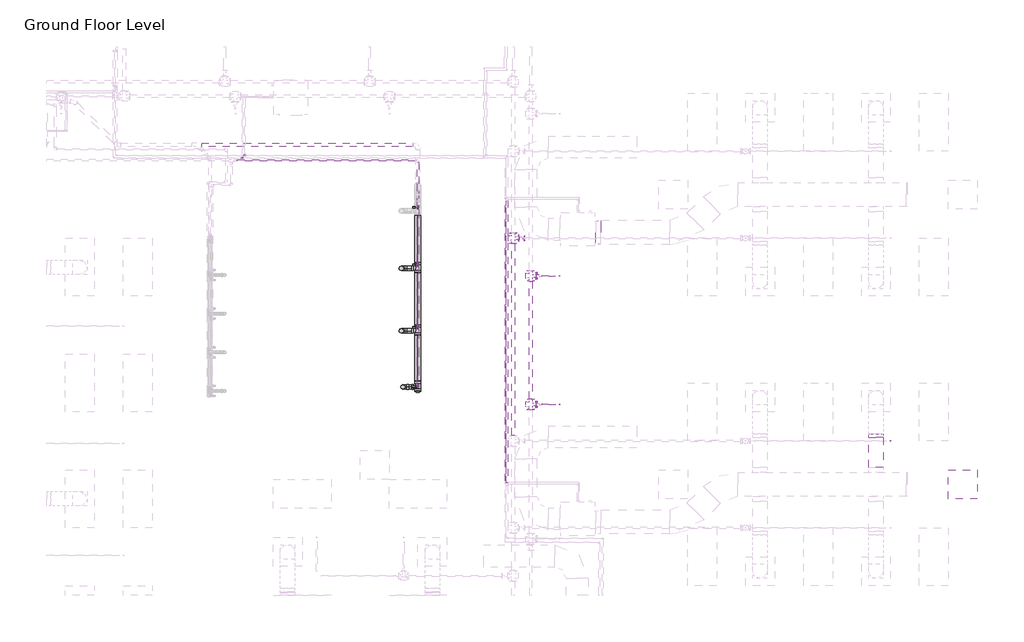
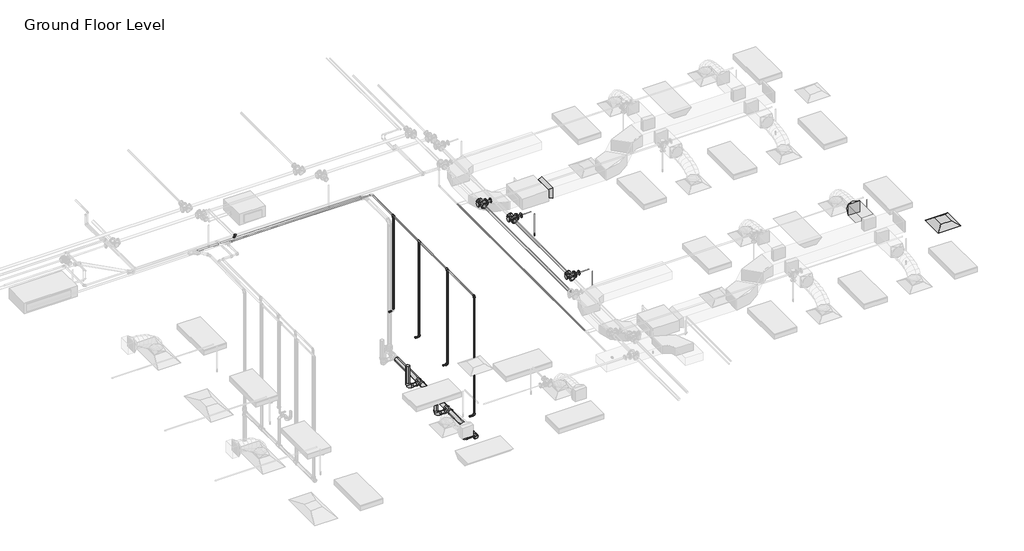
# One storey, part 65 of 73: 32 pipe segments, 24 pipe fittings, 3 fire suppression terminals, 2 duct fittings, 1 air terminal, 1 duct segment.
"""IFC4 building model written with IfcOpenShell, lengths in millimetres."""

from ifc_helpers import new_model, si_unit, point, frame, frame_2d, origin, place, context, project, spatial, polyline, circle_curve, trimmed, segment, composite_curve, outline, extrude, transform, mapped, element, save
from components import m_return_diffuser_600_x_600_face_300_x_300_connection_ff221211, m_rectangular_transition_angle_45_degree_2b595dfe, m_rectangular_to_round_transition_angle_45_degree_641efff0, m_sprinkler_dry_pendent_hosted_15_mm_dry_pendent_9bda8e11, m_sprinkler_pendent_15_mm_pendent_06fcbd8e, m_bend_pvc_sch_40_dwv_standard_a4b99d37, m_plug_pvc_sch_40_dwv_standard_6c40de1c, m_reducer_flanged_cs_class_150_standard_9dfe9ec5, m_reducer_flanged_cs_class_150_standard_a7631c35, m_tee_generic_standard_cdc1cff5, m_tee_generic_standard_bbfc025c, m_tee_reducing_sanitary_pvc_sch_40_dwv_standard_b49161a9, m_tee_round_base_flanged_cs_class_150_standard_dd767e04, m_transition_generic_standard_e9aec4dd, m_transition_generic_standard_c2658a33, standard_517a5a8d, standard_72b35c3b, standard_bfa7e4ca

model = new_model("IFC4")

# Units and contexts
model_context = context("Model", 3, world=origin())
ifc_project = project(units=[si_unit("LENGTHUNIT", "METRE", prefix="MILLI")], contexts=[model_context])

# Site, building, storey
site = spatial("IfcSite", under=ifc_project)
building = spatial("IfcBuilding", under=site)
storey = spatial("IfcBuildingStorey", under=building, Name="Ground Floor Level", Elevation=900.0)

# Air terminal
placement = place(None, origin())
m_return_diffuser_600_x_600_face_300_x_300_connection_shape = m_return_diffuser_600_x_600_face_300_x_300_connection_ff221211(model_context)
element("IfcAirTerminal", 1, ObjectType="M_Return Diffuser : 600 x 600 Face 300 x 300 Connection", at=placement, inside=storey, context=model_context, shape_type="MappedRepresentation", body=[
    mapped(m_return_diffuser_600_x_600_face_300_x_300_connection_shape, transform((14942.7672395, 6735.2153534, 3650.0), x_axis=(1.0, 0.0, 0.0), y_axis=(0.0, 1.0, 0.0), z_axis=(0.0, 0.0, 1.0))),
])

# Duct fittings
m_rectangular_transition_angle_45_degree_shape = m_rectangular_transition_angle_45_degree_2b595dfe(model_context)
element("IfcDuctFitting", 2, ObjectType="M_Rectangular Transition - Angle : 45 Degree", at=placement, inside=storey, context=model_context, shape_type="MappedRepresentation", body=[
    mapped(m_rectangular_transition_angle_45_degree_shape, transform((7344.2139492, 11956.1779527, 4100.0057729), x_axis=(1.0, 0.0, 0.0), y_axis=(0.0, 1.0, 0.0), z_axis=(0.0, 0.0, 1.0))),
])
m_rectangular_to_round_transition_angle_45_degree_shape = m_rectangular_to_round_transition_angle_45_degree_641efff0(model_context)
element("IfcDuctFitting", 3, ObjectType="M_Rectangular to Round Transition - Angle : 45 Degree", at=placement, inside=storey, context=model_context, shape_type="MappedRepresentation", body=[
    mapped(m_rectangular_to_round_transition_angle_45_degree_shape, transform((13142.7672395, 7707.8794221, 4100.0), x_axis=(0.0, 1.0, 0.0), y_axis=(-1.0, 0.0, 0.0), z_axis=(0.0, 0.0, 1.0))),
])

# Duct segment
element("IfcDuctSegment", 4, ObjectType="Radius Elbows / Taps", at=placement, inside=storey, context=model_context, shape_type="SweptSolid", body=[
    extrude(outline(polyline([(13292.7672395, 7086.8153534), (12992.7672395, 7086.8153534), (12992.7672395, 7707.8794221), (13292.7672395, 7707.8794221), (13292.7672395, 7086.8153534)])), frame((0.0, 0.0, 3950.0), z_axis=(0.0, 0.0, 1.0), x_axis=(1.0, 0.0, 0.0)), (0.0, 0.0, 1.0), 300.0),
])

# Fire suppression terminals
m_sprinkler_dry_pendent_hosted_15_mm_dry_pendent_shape = m_sprinkler_dry_pendent_hosted_15_mm_dry_pendent_9bda8e11(model_context)
element("IfcFireSuppressionTerminal", 5, ObjectType="M_Sprinkler - Dry - Pendent - Hosted : 15 mm Dry Pendent", at=placement, inside=storey, context=model_context, shape_type="MappedRepresentation", body=[
    mapped(m_sprinkler_dry_pendent_hosted_15_mm_dry_pendent_shape, transform((13442.7672395, 7635.2153534, 3650.0), x_axis=(1.0, 0.0, 0.0), y_axis=(0.0, -1.0, 0.0), z_axis=(0.0, 0.0, -1.0))),
])
m_sprinkler_pendent_15_mm_pendent_shape = m_sprinkler_pendent_15_mm_pendent_06fcbd8e(model_context)
element("IfcFireSuppressionTerminal", 6, ObjectType="M_Sprinkler - Pendent : 15 mm Pendent", at=placement, inside=storey, context=model_context, shape_type="MappedRepresentation", body=[
    mapped(m_sprinkler_pendent_15_mm_pendent_shape, transform((6592.5481019, 11054.9808263, 3650.0), x_axis=(1.0, 0.0, 0.0), y_axis=(0.0, 1.0, 0.0), z_axis=(0.0, 0.0, 1.0))),
])
element("IfcFireSuppressionTerminal", 7, ObjectType="M_Sprinkler - Pendent : 15 mm Pendent", at=placement, inside=storey, context=model_context, shape_type="MappedRepresentation", body=[
    mapped(m_sprinkler_pendent_15_mm_pendent_shape, transform((6592.5481019, 8393.5579106, 3650.0), x_axis=(1.0, 0.0, 0.0), y_axis=(0.0, 1.0, 0.0), z_axis=(0.0, 0.0, 1.0))),
])

# Pipe fittings
m_bend_pvc_sch_40_dwv_standard_shape = m_bend_pvc_sch_40_dwv_standard_a4b99d37(model_context)
element("IfcPipeFitting", 8, ObjectType="M_Bend - PVC - Sch 40 - DWV : Standard", at=placement, inside=storey, context=model_context, shape_type="MappedRepresentation", body=[
    mapped(m_bend_pvc_sch_40_dwv_standard_shape, transform((3351.3697667, 8754.4159333, 426.6255336), x_axis=(0.0, 0.0, -1.0), y_axis=(1.0, 0.0, 0.0), z_axis=(0.0, -1.0, 0.0))),
])
element("IfcPipeFitting", 9, ObjectType="M_Bend - PVC - Sch 40 - DWV : Standard", at=placement, inside=storey, context=model_context, shape_type="MappedRepresentation", body=[
    mapped(m_bend_pvc_sch_40_dwv_standard_shape, transform((3319.2245422, 9917.654001, 414.9931529), x_axis=(0.0, 0.0, -1.0), y_axis=(1.0, 0.0, 0.0), z_axis=(0.0, -1.0, 0.0))),
])
element("IfcPipeFitting", 10, ObjectType="M_Bend - PVC - Sch 40 - DWV : Standard", at=placement, inside=storey, context=model_context, shape_type="MappedRepresentation", body=[
    mapped(m_bend_pvc_sch_40_dwv_standard_shape, transform((3319.2245422, 11211.6258776, 402.0534342), x_axis=(0.0, 0.0, -1.0), y_axis=(1.0, 0.0, 0.0), z_axis=(0.0, -1.0, 0.0))),
])
m_plug_pvc_sch_40_dwv_standard_shape = m_plug_pvc_sch_40_dwv_standard_6c40de1c(model_context)
element("IfcPipeFitting", 11, ObjectType="M_Plug - PVC - Sch 40 - DWV : Standard", at=placement, inside=storey, context=model_context, shape_type="MappedRepresentation", body=[
    mapped(m_plug_pvc_sch_40_dwv_standard_shape, transform((3657.4922763, 8665.519878, 427.4644942), x_axis=(0.0, -0.9999500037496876, 0.009999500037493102), y_axis=(1.0, 0.0, 0.0), z_axis=(0.0, 0.009999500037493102, 0.9999500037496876))),
])
m_reducer_flanged_cs_class_150_standard_shape = m_reducer_flanged_cs_class_150_standard_9dfe9ec5(model_context)
element("IfcPipeFitting", 12, ObjectType="M_Reducer - Flanged - CS - Class 150 : Standard", at=placement, inside=storey, context=model_context, shape_type="MappedRepresentation", body=[
    mapped(m_reducer_flanged_cs_class_150_standard_shape, transform((6111.057812, 11054.9808263, 4291.2754753), x_axis=(1.0, 0.0, 0.0), y_axis=(0.0, 0.0, -1.0), z_axis=(0.0, 1.0, 0.0))),
])
element("IfcPipeFitting", 13, ObjectType="M_Reducer - Flanged - CS - Class 150 : Standard", at=placement, inside=storey, context=model_context, shape_type="MappedRepresentation", body=[
    mapped(m_reducer_flanged_cs_class_150_standard_shape, transform((6111.057812, 8393.5579106, 4291.2754753), x_axis=(1.0, 0.0, 0.0), y_axis=(0.0, 0.0, -1.0), z_axis=(0.0, 1.0, 0.0))),
])
m_reducer_flanged_cs_class_150_standard_2_shape = m_reducer_flanged_cs_class_150_standard_a7631c35(model_context)
element("IfcPipeFitting", 14, ObjectType="M_Reducer - Flanged - CS - Class 150 : Standard", at=placement, inside=storey, context=model_context, shape_type="MappedRepresentation", body=[
    mapped(m_reducer_flanged_cs_class_150_standard_2_shape, transform((5749.869498, 11835.2153534, 4360.0), x_axis=(1.0, 0.0, 0.0), y_axis=(0.0, 0.0, 1.0), z_axis=(0.0, -1.0, 0.0))),
])
m_tee_generic_standard_shape = m_tee_generic_standard_cdc1cff5(model_context)
element("IfcPipeFitting", 15, ObjectType="M_Tee - Generic : Standard", at=placement, inside=storey, context=model_context, shape_type="MappedRepresentation", body=[
    mapped(m_tee_generic_standard_shape, transform((29.9807053, 13494.0185138, 4365.0), x_axis=(-1.0, 0.0, 0.0), y_axis=(0.0, -1.0, 0.0), z_axis=(0.0, 0.0, 1.0))),
])
m_tee_generic_standard_2_shape = m_tee_generic_standard_bbfc025c(model_context)
element("IfcPipeFitting", 16, ObjectType="M_Tee - Generic : Standard", at=placement, inside=storey, context=model_context, shape_type="MappedRepresentation", body=[
    mapped(m_tee_generic_standard_2_shape, transform((79.6672395, 13545.2153534, 4380.0), x_axis=(-1.0, 0.0, 0.0), y_axis=(0.0, -1.0, 0.0), z_axis=(0.0, 0.0, 1.0))),
])
m_tee_reducing_sanitary_pvc_sch_40_dwv_standard_shape = m_tee_reducing_sanitary_pvc_sch_40_dwv_standard_b49161a9(model_context)
element("IfcPipeFitting", 17, ObjectType="M_Tee Reducing Sanitary - PVC - Sch 40 - DWV : Standard", at=placement, inside=storey, context=model_context, shape_type="MappedRepresentation", body=[
    mapped(m_tee_reducing_sanitary_pvc_sch_40_dwv_standard_shape, transform((3657.4922763, 8754.4154334, 426.5755386), x_axis=(0.0, -0.9999500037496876, 0.009999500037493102), y_axis=(1.0, 0.0, 0.0), z_axis=(0.0, 0.009999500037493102, 0.9999500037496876))),
])
element("IfcPipeFitting", 18, ObjectType="M_Tee Reducing Sanitary - PVC - Sch 40 - DWV : Standard", at=placement, inside=storey, context=model_context, shape_type="MappedRepresentation", body=[
    mapped(m_tee_reducing_sanitary_pvc_sch_40_dwv_standard_shape, transform((3657.4922763, 9917.6535011, 414.9431579), x_axis=(0.0, -0.9999500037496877, 0.009999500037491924), y_axis=(1.0000000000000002, 0.0, 0.0), z_axis=(0.0, 0.009999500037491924, 0.9999500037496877))),
])
element("IfcPipeFitting", 19, ObjectType="M_Tee Reducing Sanitary - PVC - Sch 40 - DWV : Standard", at=placement, inside=storey, context=model_context, shape_type="MappedRepresentation", body=[
    mapped(m_tee_reducing_sanitary_pvc_sch_40_dwv_standard_shape, transform((3657.4922763, 11211.6253777, 402.0034392), x_axis=(0.0, -0.9999500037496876, 0.00999950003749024), y_axis=(1.0, 0.0, 0.0), z_axis=(0.0, 0.00999950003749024, 0.9999500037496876))),
])
m_tee_round_base_flanged_cs_class_150_standard_shape = m_tee_round_base_flanged_cs_class_150_standard_dd767e04(model_context)
element("IfcPipeFitting", 20, ObjectType="M_Tee Round Base - Flanged - CS - Class 150 : Standard", at=placement, inside=storey, context=model_context, shape_type="MappedRepresentation", body=[
    mapped(m_tee_round_base_flanged_cs_class_150_standard_shape, transform((5997.057812, 11054.9808263, 4291.0943441), x_axis=(0.0, 1.0, 0.0), y_axis=(-1.0, 0.0, 0.0), z_axis=(0.0, 0.0, 1.0))),
])
element("IfcPipeFitting", 21, ObjectType="M_Tee Round Base - Flanged - CS - Class 150 : Standard", at=placement, inside=storey, context=model_context, shape_type="MappedRepresentation", body=[
    mapped(m_tee_round_base_flanged_cs_class_150_standard_shape, transform((5997.057812, 8393.5579106, 4291.0943441), x_axis=(0.0, 1.0, 0.0), y_axis=(-1.0, 0.0, 0.0), z_axis=(0.0, 0.0, 1.0))),
])
element("IfcPipeFitting", 22, ObjectType="M_Tee Round Base - Flanged - CS - Class 150 : Standard", at=placement, inside=storey, context=model_context, shape_type="MappedRepresentation", body=[
    mapped(m_tee_round_base_flanged_cs_class_150_standard_shape, transform((5635.869498, 11835.2153534, 4360.0), x_axis=(0.0, 1.0, 0.0), y_axis=(-1.0, 0.0, 0.0), z_axis=(0.0, 0.0, 1.0))),
])
m_transition_generic_standard_shape = m_transition_generic_standard_e9aec4dd(model_context)
element("IfcPipeFitting", 23, ObjectType="M_Transition - Generic : Standard", at=placement, inside=storey, context=model_context, shape_type="MappedRepresentation", body=[
    mapped(m_transition_generic_standard_shape, transform((79.6672395, 13570.6153534, 4380.0), x_axis=(0.0, 1.0, 0.0), y_axis=(-1.0, 0.0, 0.0), z_axis=(0.0, 0.0, 1.0))),
])
m_transition_generic_standard_2_shape = m_transition_generic_standard_c2658a33(model_context)
element("IfcPipeFitting", 24, ObjectType="M_Transition - Generic : Standard", at=placement, inside=storey, context=model_context, shape_type="MappedRepresentation", body=[
    mapped(m_transition_generic_standard_2_shape, transform((29.9807053, 13516.2435138, 4365.0), x_axis=(0.0, 1.0, 0.0), y_axis=(-1.0, 0.0, 0.0), z_axis=(0.0, 0.0, 1.0))),
])
standard_shape = standard_517a5a8d(model_context)
element("IfcPipeFitting", 25, ObjectType="M_Elbow - CPVC - Sch 40 : Standard", at=placement, inside=storey, context=model_context, shape_type="MappedRepresentation", body=[
    mapped(standard_shape, transform((3662.4674395, 8754.4154334, 4315.0), x_axis=(0.0, -1.0, 0.0), y_axis=(0.0, 0.0, -1.0), z_axis=(1.0, 0.0, 0.0))),
])
element("IfcPipeFitting", 26, ObjectType="M_Elbow - CPVC - Sch 40 : Standard", at=placement, inside=storey, context=model_context, shape_type="MappedRepresentation", body=[
    mapped(standard_shape, transform((3662.4674395, 9991.0922673, 1655.0), x_axis=(0.0, 0.0, -1.0), y_axis=(-1.0, 0.0, 0.0), z_axis=(0.0, 1.0, 0.0))),
])
element("IfcPipeFitting", 27, ObjectType="M_Elbow - CPVC - Sch 40 : Standard", at=placement, inside=storey, context=model_context, shape_type="MappedRepresentation", body=[
    mapped(standard_shape, transform((3662.4674395, 11285.0641439, 1655.0), x_axis=(0.0, 0.0, -1.0), y_axis=(-1.0, 0.0, 0.0), z_axis=(0.0, 1.0, 0.0))),
])
standard_2_shape = standard_72b35c3b(model_context)
element("IfcPipeFitting", 28, ObjectType="M_Tee - CPVC - Sch 40 : Standard", at=placement, inside=storey, context=model_context, shape_type="MappedRepresentation", body=[
    mapped(standard_2_shape, transform((3662.4674395, 9991.0922673, 4315.0), x_axis=(0.0, -1.0, 0.0), y_axis=(0.0, 0.0, 1.0), z_axis=(-1.0, 0.0, 0.0))),
])
element("IfcPipeFitting", 29, ObjectType="M_Tee - CPVC - Sch 40 : Standard", at=placement, inside=storey, context=model_context, shape_type="MappedRepresentation", body=[
    mapped(standard_2_shape, transform((3662.4674395, 11285.0641439, 4315.0), x_axis=(0.0, -1.0, 0.0), y_axis=(0.0, 0.0, 1.0), z_axis=(-1.0, 0.0, 0.0))),
])
element("IfcPipeFitting", 30, ObjectType="M_Tee - CPVC - Sch 40 : Standard", at=placement, inside=storey, context=model_context, shape_type="MappedRepresentation", body=[
    mapped(standard_2_shape, transform((3662.4674395, 12474.4768272, 4315.0), x_axis=(0.0, -1.0, 0.0), y_axis=(0.0, 0.0, 1.0), z_axis=(-1.0, 0.0, 0.0))),
])
standard_3_shape = standard_bfa7e4ca(model_context)
element("IfcPipeFitting", 31, ObjectType="M_Elbow - CPVC - Sch 40 : Standard", at=placement, inside=storey, context=model_context, shape_type="MappedRepresentation", body=[
    mapped(standard_3_shape, transform((3662.4674395, 8754.4154334, 983.5), x_axis=(0.0, 0.0, -1.0), y_axis=(-1.0, 0.0, 0.0), z_axis=(0.0, 1.0, 0.0))),
])

# Pipe segments
element("IfcPipeSegment", 32, ObjectType="CPVC", at=placement, inside=storey, context=model_context, shape_type="SweptSolid", body=[
    extrude(outline(composite_curve([segment(trimmed(circle_curve(frame_2d((13449.9865561, 4315.0)), 16.7005), [point((13433.2860561, 4315.0))], [point((13449.9865561, 4331.7005))], False, "CARTESIAN"), True, "CONTINUOUS"), segment(trimmed(circle_curve(frame_2d((13449.9865561, 4315.0)), 16.7005), [point((13449.9865561, 4331.7005))], [point((13466.6870561, 4315.0))], False, "CARTESIAN"), True, "CONTINUOUS"), segment(trimmed(circle_curve(frame_2d((13449.9865561, 4315.0)), 16.7005), [point((13466.6870561, 4315.0))], [point((13449.9865561, 4298.2995))], False, "CARTESIAN"), True, "CONTINUOUS"), segment(trimmed(circle_curve(frame_2d((13449.9865561, 4315.0)), 16.7005), [point((13449.9865561, 4298.2995))], [point((13433.2860561, 4315.0))], False, "CARTESIAN"), True, "CONTINUOUS")], self_intersect=False)), frame((-77.1388855, 0.0, 0.0), z_axis=(1.0, 0.0, 0.0), x_axis=(0.0, 1.0, 0.0)), (0.0, 0.0, 1.0), 3696.343775),
])
element("IfcPipeSegment", 33, ObjectType="CPVC", at=placement, inside=storey, context=model_context, shape_type="SweptSolid", body=[
    extrude(outline(composite_curve([segment(trimmed(circle_curve(frame_2d((8754.4154334, 983.4999927)), 16.7005), [point((8771.1159334, 983.4999927))], [point((8754.4154334, 966.7994927))], False, "CARTESIAN"), True, "CONTINUOUS"), segment(trimmed(circle_curve(frame_2d((8754.4154334, 983.4999927)), 16.7005), [point((8754.4154334, 966.7994927))], [point((8737.7149334, 983.4999927))], False, "CARTESIAN"), True, "CONTINUOUS"), segment(trimmed(circle_curve(frame_2d((8754.4154334, 983.4999927)), 16.7005), [point((8737.7149334, 983.4999927))], [point((8754.4154334, 1000.2004927))], False, "CARTESIAN"), True, "CONTINUOUS"), segment(trimmed(circle_curve(frame_2d((8754.4154334, 983.4999927)), 16.7005), [point((8754.4154334, 1000.2004927))], [point((8771.1159334, 983.4999927))], False, "CARTESIAN"), True, "CONTINUOUS")], self_intersect=False)), frame((3537.5384422, 0.0, 0.0), z_axis=(1.0, 0.0, 0.0), x_axis=(0.0, 1.0, 0.0)), (0.0, 0.0, 1.0), 81.6664508),
])
element("IfcPipeSegment", 34, ObjectType="CPVC", at=placement, inside=storey, context=model_context, shape_type="SweptSolid", body=[
    extrude(outline(composite_curve([segment(trimmed(circle_curve(frame_2d((3662.4674395, 8754.4154334)), 16.7005), [point((3679.1679395, 8754.4154334))], [point((3662.4674395, 8737.7149334))], False, "CARTESIAN"), True, "CONTINUOUS"), segment(trimmed(circle_curve(frame_2d((3662.4674395, 8754.4154334)), 16.7005), [point((3662.4674395, 8737.7149334))], [point((3645.7669395, 8754.4154334))], False, "CARTESIAN"), True, "CONTINUOUS"), segment(trimmed(circle_curve(frame_2d((3662.4674395, 8754.4154334)), 16.7005), [point((3645.7669395, 8754.4154334))], [point((3662.4674395, 8771.1159334))], False, "CARTESIAN"), True, "CONTINUOUS"), segment(trimmed(circle_curve(frame_2d((3662.4674395, 8754.4154334)), 16.7005), [point((3662.4674395, 8771.1159334))], [point((3679.1679395, 8754.4154334))], False, "CARTESIAN"), True, "CONTINUOUS")], self_intersect=False)), frame((0.0, 0.0, 1026.7625464), z_axis=(0.0, 0.0, 1.0), x_axis=(1.0, 0.0, 0.0)), (0.0, 0.0, 1.0), 3244.9749036),
])
element("IfcPipeSegment", 35, ObjectType="CPVC", at=placement, inside=storey, context=model_context, shape_type="SweptSolid", body=[
    extrude(outline(composite_curve([segment(trimmed(circle_curve(frame_2d((4315.0, 3662.4674395)), 16.7005), [point((4315.0, 3645.7669395))], [point((4298.2995, 3662.4674395))], False, "CARTESIAN"), True, "CONTINUOUS"), segment(trimmed(circle_curve(frame_2d((4315.0, 3662.4674395)), 16.7005), [point((4298.2995, 3662.4674395))], [point((4315.0, 3679.1679395))], False, "CARTESIAN"), True, "CONTINUOUS"), segment(trimmed(circle_curve(frame_2d((4315.0, 3662.4674395)), 16.7005), [point((4315.0, 3679.1679395))], [point((4331.7005, 3662.4674395))], False, "CARTESIAN"), True, "CONTINUOUS"), segment(trimmed(circle_curve(frame_2d((4315.0, 3662.4674395)), 16.7005), [point((4331.7005, 3662.4674395))], [point((4315.0, 3645.7669395))], False, "CARTESIAN"), True, "CONTINUOUS")], self_intersect=False)), frame((0.0, 8797.6779834, 0.0), z_axis=(0.0, 1.0, 0.0), x_axis=(0.0, 0.0, 1.0)), (0.0, 0.0, 1.0), 1153.7140839),
])
element("IfcPipeSegment", 36, ObjectType="CPVC", at=placement, inside=storey, context=model_context, shape_type="SweptSolid", body=[
    extrude(outline(composite_curve([segment(trimmed(circle_curve(frame_2d((9991.0922673, 1655.0)), 16.7005), [point((10007.7927673, 1655.0))], [point((9991.0922673, 1638.2995))], False, "CARTESIAN"), True, "CONTINUOUS"), segment(trimmed(circle_curve(frame_2d((9991.0922673, 1655.0)), 16.7005), [point((9991.0922673, 1638.2995))], [point((9974.3917673, 1655.0))], False, "CARTESIAN"), True, "CONTINUOUS"), segment(trimmed(circle_curve(frame_2d((9991.0922673, 1655.0)), 16.7005), [point((9974.3917673, 1655.0))], [point((9991.0922673, 1671.7005))], False, "CARTESIAN"), True, "CONTINUOUS"), segment(trimmed(circle_curve(frame_2d((9991.0922673, 1655.0)), 16.7005), [point((9991.0922673, 1671.7005))], [point((10007.7927673, 1655.0))], False, "CARTESIAN"), True, "CONTINUOUS")], self_intersect=False)), frame((3552.7672395, 0.0, 0.0), z_axis=(1.0, 0.0, 0.0), x_axis=(0.0, 1.0, 0.0)), (0.0, 0.0, 1.0), 66.43765),
])
element("IfcPipeSegment", 37, ObjectType="CPVC", at=placement, inside=storey, context=model_context, shape_type="SweptSolid", body=[
    extrude(outline(composite_curve([segment(trimmed(circle_curve(frame_2d((3662.4674395, 9991.0922673)), 16.7005), [point((3679.1679395, 9991.0922673))], [point((3662.4674395, 9974.3917673))], False, "CARTESIAN"), True, "CONTINUOUS"), segment(trimmed(circle_curve(frame_2d((3662.4674395, 9991.0922673)), 16.7005), [point((3662.4674395, 9974.3917673))], [point((3645.7669395, 9991.0922673))], False, "CARTESIAN"), True, "CONTINUOUS"), segment(trimmed(circle_curve(frame_2d((3662.4674395, 9991.0922673)), 16.7005), [point((3645.7669395, 9991.0922673))], [point((3662.4674395, 10007.7927673))], False, "CARTESIAN"), True, "CONTINUOUS"), segment(trimmed(circle_curve(frame_2d((3662.4674395, 9991.0922673)), 16.7005), [point((3662.4674395, 10007.7927673))], [point((3679.1679395, 9991.0922673))], False, "CARTESIAN"), True, "CONTINUOUS")], self_intersect=False)), frame((0.0, 0.0, 1698.26255), z_axis=(0.0, 0.0, 1.0), x_axis=(1.0, 0.0, 0.0)), (0.0, 0.0, 1.0), 2577.03725),
])
element("IfcPipeSegment", 38, ObjectType="CPVC", at=placement, inside=storey, context=model_context, shape_type="SweptSolid", body=[
    extrude(outline(composite_curve([segment(trimmed(circle_curve(frame_2d((4315.0, 3662.4674395)), 16.7005), [point((4315.0, 3645.7669395))], [point((4298.2995, 3662.4674395))], False, "CARTESIAN"), True, "CONTINUOUS"), segment(trimmed(circle_curve(frame_2d((4315.0, 3662.4674395)), 16.7005), [point((4298.2995, 3662.4674395))], [point((4315.0, 3679.1679395))], False, "CARTESIAN"), True, "CONTINUOUS"), segment(trimmed(circle_curve(frame_2d((4315.0, 3662.4674395)), 16.7005), [point((4315.0, 3679.1679395))], [point((4331.7005, 3662.4674395))], False, "CARTESIAN"), True, "CONTINUOUS"), segment(trimmed(circle_curve(frame_2d((4315.0, 3662.4674395)), 16.7005), [point((4331.7005, 3662.4674395))], [point((4315.0, 3645.7669395))], False, "CARTESIAN"), True, "CONTINUOUS")], self_intersect=False)), frame((0.0, 10030.7924673, 0.0), z_axis=(0.0, 1.0, 0.0), x_axis=(0.0, 0.0, 1.0)), (0.0, 0.0, 1.0), 1214.5714766),
])
element("IfcPipeSegment", 39, ObjectType="CPVC", at=placement, inside=storey, context=model_context, shape_type="SweptSolid", body=[
    extrude(outline(composite_curve([segment(trimmed(circle_curve(frame_2d((11285.0641439, 1655.0)), 16.7005), [point((11301.7646439, 1655.0))], [point((11285.0641439, 1638.2995))], False, "CARTESIAN"), True, "CONTINUOUS"), segment(trimmed(circle_curve(frame_2d((11285.0641439, 1655.0)), 16.7005), [point((11285.0641439, 1638.2995))], [point((11268.3636439, 1655.0))], False, "CARTESIAN"), True, "CONTINUOUS"), segment(trimmed(circle_curve(frame_2d((11285.0641439, 1655.0)), 16.7005), [point((11268.3636439, 1655.0))], [point((11285.0641439, 1671.7005))], False, "CARTESIAN"), True, "CONTINUOUS"), segment(trimmed(circle_curve(frame_2d((11285.0641439, 1655.0)), 16.7005), [point((11285.0641439, 1671.7005))], [point((11301.7646439, 1655.0))], False, "CARTESIAN"), True, "CONTINUOUS")], self_intersect=False)), frame((3552.7672395, 0.0, 0.0), z_axis=(1.0, 0.0, 0.0), x_axis=(0.0, 1.0, 0.0)), (0.0, 0.0, 1.0), 66.43765),
])
element("IfcPipeSegment", 40, ObjectType="CPVC", at=placement, inside=storey, context=model_context, shape_type="SweptSolid", body=[
    extrude(outline(composite_curve([segment(trimmed(circle_curve(frame_2d((3662.4674395, 11285.0641439)), 16.7005), [point((3679.1679395, 11285.0641439))], [point((3662.4674395, 11268.3636439))], False, "CARTESIAN"), True, "CONTINUOUS"), segment(trimmed(circle_curve(frame_2d((3662.4674395, 11285.0641439)), 16.7005), [point((3662.4674395, 11268.3636439))], [point((3645.7669395, 11285.0641439))], False, "CARTESIAN"), True, "CONTINUOUS"), segment(trimmed(circle_curve(frame_2d((3662.4674395, 11285.0641439)), 16.7005), [point((3645.7669395, 11285.0641439))], [point((3662.4674395, 11301.7646439))], False, "CARTESIAN"), True, "CONTINUOUS"), segment(trimmed(circle_curve(frame_2d((3662.4674395, 11285.0641439)), 16.7005), [point((3662.4674395, 11301.7646439))], [point((3679.1679395, 11285.0641439))], False, "CARTESIAN"), True, "CONTINUOUS")], self_intersect=False)), frame((0.0, 0.0, 1698.26255), z_axis=(0.0, 0.0, 1.0), x_axis=(1.0, 0.0, 0.0)), (0.0, 0.0, 1.0), 2577.03725),
])
element("IfcPipeSegment", 41, ObjectType="CPVC", at=placement, inside=storey, context=model_context, shape_type="SweptSolid", body=[
    extrude(outline(composite_curve([segment(trimmed(circle_curve(frame_2d((4315.0, 3662.4674395)), 16.7005), [point((4315.0, 3645.7669395))], [point((4298.2995, 3662.4674395))], False, "CARTESIAN"), True, "CONTINUOUS"), segment(trimmed(circle_curve(frame_2d((4315.0, 3662.4674395)), 16.7005), [point((4298.2995, 3662.4674395))], [point((4315.0, 3679.1679395))], False, "CARTESIAN"), True, "CONTINUOUS"), segment(trimmed(circle_curve(frame_2d((4315.0, 3662.4674395)), 16.7005), [point((4315.0, 3679.1679395))], [point((4331.7005, 3662.4674395))], False, "CARTESIAN"), True, "CONTINUOUS"), segment(trimmed(circle_curve(frame_2d((4315.0, 3662.4674395)), 16.7005), [point((4331.7005, 3662.4674395))], [point((4315.0, 3645.7669395))], False, "CARTESIAN"), True, "CONTINUOUS")], self_intersect=False)), frame((0.0, 11324.7643439, 0.0), z_axis=(0.0, 1.0, 0.0), x_axis=(0.0, 0.0, 1.0)), (0.0, 0.0, 1.0), 1110.0122833),
])
element("IfcPipeSegment", 42, ObjectType="CPVC", at=placement, inside=storey, context=model_context, shape_type="SweptSolid", body=[
    extrude(outline(composite_curve([segment(trimmed(circle_curve(frame_2d((12474.4768272, 1655.0)), 16.7005), [point((12491.1773272, 1655.0))], [point((12474.4768272, 1638.2995))], False, "CARTESIAN"), True, "CONTINUOUS"), segment(trimmed(circle_curve(frame_2d((12474.4768272, 1655.0)), 16.7005), [point((12474.4768272, 1638.2995))], [point((12457.7763272, 1655.0))], False, "CARTESIAN"), True, "CONTINUOUS"), segment(trimmed(circle_curve(frame_2d((12474.4768272, 1655.0)), 16.7005), [point((12457.7763272, 1655.0))], [point((12474.4768272, 1671.7005))], False, "CARTESIAN"), True, "CONTINUOUS"), segment(trimmed(circle_curve(frame_2d((12474.4768272, 1655.0)), 16.7005), [point((12474.4768272, 1671.7005))], [point((12491.1773272, 1655.0))], False, "CARTESIAN"), True, "CONTINUOUS")], self_intersect=False)), frame((3552.7672395, 0.0, 0.0), z_axis=(1.0, 0.0, 0.0), x_axis=(0.0, 1.0, 0.0)), (0.0, 0.0, 1.0), 66.43765),
])
element("IfcPipeSegment", 43, ObjectType="CPVC", at=placement, inside=storey, context=model_context, shape_type="SweptSolid", body=[
    extrude(outline(composite_curve([segment(trimmed(circle_curve(frame_2d((3662.4674395, 12474.4768272)), 16.7005), [point((3679.1679395, 12474.4768272))], [point((3662.4674395, 12457.7763272))], False, "CARTESIAN"), True, "CONTINUOUS"), segment(trimmed(circle_curve(frame_2d((3662.4674395, 12474.4768272)), 16.7005), [point((3662.4674395, 12457.7763272))], [point((3645.7669395, 12474.4768272))], False, "CARTESIAN"), True, "CONTINUOUS"), segment(trimmed(circle_curve(frame_2d((3662.4674395, 12474.4768272)), 16.7005), [point((3645.7669395, 12474.4768272))], [point((3662.4674395, 12491.1773272))], False, "CARTESIAN"), True, "CONTINUOUS"), segment(trimmed(circle_curve(frame_2d((3662.4674395, 12474.4768272)), 16.7005), [point((3662.4674395, 12491.1773272))], [point((3679.1679395, 12474.4768272))], False, "CARTESIAN"), True, "CONTINUOUS")], self_intersect=False)), frame((0.0, 0.0, 1698.26255), z_axis=(0.0, 0.0, 1.0), x_axis=(1.0, 0.0, 0.0)), (0.0, 0.0, 1.0), 2577.03725),
])
element("IfcPipeSegment", 44, ObjectType="CPVC", at=placement, inside=storey, context=model_context, shape_type="SweptSolid", body=[
    extrude(outline(composite_curve([segment(trimmed(circle_curve(frame_2d((4315.0, 3662.4674395)), 16.7005), [point((4315.0, 3645.7669395))], [point((4298.2995, 3662.4674395))], False, "CARTESIAN"), True, "CONTINUOUS"), segment(trimmed(circle_curve(frame_2d((4315.0, 3662.4674395)), 16.7005), [point((4298.2995, 3662.4674395))], [point((4315.0, 3679.1679395))], False, "CARTESIAN"), True, "CONTINUOUS"), segment(trimmed(circle_curve(frame_2d((4315.0, 3662.4674395)), 16.7005), [point((4315.0, 3679.1679395))], [point((4331.7005, 3662.4674395))], False, "CARTESIAN"), True, "CONTINUOUS"), segment(trimmed(circle_curve(frame_2d((4315.0, 3662.4674395)), 16.7005), [point((4331.7005, 3662.4674395))], [point((4315.0, 3645.7669395))], False, "CARTESIAN"), True, "CONTINUOUS")], self_intersect=False)), frame((0.0, 12514.1770272, 0.0), z_axis=(0.0, 1.0, 0.0), x_axis=(0.0, 0.0, 1.0)), (0.0, 0.0, 1.0), 892.546979),
])
element("IfcPipeSegment", 45, ObjectType="Copper", at=placement, inside=storey, context=model_context, shape_type="SweptSolid", body=[
    extrude(outline(composite_curve([segment(trimmed(circle_curve(frame_2d((3851.8370709, 5505.0672395)), 11.5), [point((3851.8370709, 5493.5672395))], [point((3840.3370709, 5505.0672395))], False, "CARTESIAN"), True, "CONTINUOUS"), segment(trimmed(circle_curve(frame_2d((3851.8370709, 5505.0672395)), 11.5), [point((3840.3370709, 5505.0672395))], [point((3851.8370709, 5516.5672395))], False, "CARTESIAN"), True, "CONTINUOUS"), segment(trimmed(circle_curve(frame_2d((3851.8370709, 5505.0672395)), 11.5), [point((3851.8370709, 5516.5672395))], [point((3863.3370709, 5505.0672395))], False, "CARTESIAN"), True, "CONTINUOUS"), segment(trimmed(circle_curve(frame_2d((3851.8370709, 5505.0672395)), 11.5), [point((3863.3370709, 5505.0672395))], [point((3851.8370709, 5493.5672395))], False, "CARTESIAN"), True, "CONTINUOUS")], self_intersect=False)), frame((0.0, 6766.8098545, 0.0), z_axis=(0.0, 1.0, 0.0), x_axis=(0.0, 0.0, 1.0)), (0.0, 0.0, 1.0), 5849.2),
])
element("IfcPipeSegment", 46, ObjectType="Copper", at=placement, inside=storey, context=model_context, shape_type="SweptSolid", body=[
    extrude(outline(composite_curve([segment(trimmed(circle_curve(frame_2d((3894.9, 5472.2057053)), 8.1), [point((3894.9, 5464.1057053))], [point((3886.8, 5472.2057053))], False, "CARTESIAN"), True, "CONTINUOUS"), segment(trimmed(circle_curve(frame_2d((3894.9, 5472.2057053)), 8.1), [point((3886.8, 5472.2057053))], [point((3894.9, 5480.3057053))], False, "CARTESIAN"), True, "CONTINUOUS"), segment(trimmed(circle_curve(frame_2d((3894.9, 5472.2057053)), 8.1), [point((3894.9, 5480.3057053))], [point((3903.0, 5472.2057053))], False, "CARTESIAN"), True, "CONTINUOUS"), segment(trimmed(circle_curve(frame_2d((3894.9, 5472.2057053)), 8.1), [point((3903.0, 5472.2057053))], [point((3894.9, 5464.1057053))], False, "CARTESIAN"), True, "CONTINUOUS")], self_intersect=False)), frame((0.0, 6803.7503374, 0.0), z_axis=(0.0, 1.0, 0.0), x_axis=(0.0, 0.0, 1.0)), (0.0, 0.0, 1.0), 5855.55),
])
element("IfcPipeSegment", 47, ObjectType="PVC - DWV", at=placement, inside=storey, context=model_context, shape_type="SweptSolid", body=[
    extrude(outline(composite_curve([segment(trimmed(circle_curve(frame_2d((0.0, -44.45)), 44.45), [point((-44.45, -44.45))], [point((0.0, 0.0))], False, "CARTESIAN"), True, "CONTINUOUS"), segment(trimmed(circle_curve(frame_2d((0.0, -44.45)), 44.45), [point((0.0, 0.0))], [point((44.45, -44.45))], False, "CARTESIAN"), True, "CONTINUOUS"), segment(trimmed(circle_curve(frame_2d((0.0, -44.45)), 44.45), [point((44.45, -44.45))], [point((0.0, -88.9))], False, "CARTESIAN"), True, "CONTINUOUS"), segment(trimmed(circle_curve(frame_2d((0.0, -44.45)), 44.45), [point((0.0, -88.9))], [point((-44.45, -44.45))], False, "CARTESIAN"), True, "CONTINUOUS")], self_intersect=False)), frame((3351.3697667, 8709.9659333, 542.5256565), z_axis=(0.0, -1.7350781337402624e-06, 0.9999999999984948), x_axis=(-1.0, 0.0, 0.0)), (0.0, 0.0, 1.0), 288.142643),
])
element("IfcPipeSegment", 48, ObjectType="PVC - DWV", at=placement, inside=storey, context=model_context, shape_type="SweptSolid", body=[
    extrude(outline(composite_curve([segment(trimmed(circle_curve(frame_2d((8754.4154334, 426.5755386)), 44.45), [point((8709.9654334, 426.5755386))], [point((8754.4154334, 471.0255386))], False, "CARTESIAN"), True, "CONTINUOUS"), segment(trimmed(circle_curve(frame_2d((8754.4154334, 426.5755386)), 44.45), [point((8754.4154334, 471.0255386))], [point((8798.8654334, 426.5755386))], False, "CARTESIAN"), True, "CONTINUOUS"), segment(trimmed(circle_curve(frame_2d((8754.4154334, 426.5755386)), 44.45), [point((8798.8654334, 426.5755386))], [point((8754.4154334, 382.1255386))], False, "CARTESIAN"), True, "CONTINUOUS"), segment(trimmed(circle_curve(frame_2d((8754.4154334, 426.5755386)), 44.45), [point((8754.4154334, 382.1255386))], [point((8709.9654334, 426.5755386))], False, "CARTESIAN"), True, "CONTINUOUS")], self_intersect=False)), frame((3467.2699667, 0.0, 0.0), z_axis=(1.0, 0.0, 0.0), x_axis=(0.0, 1.0, 0.0)), (0.0, 0.0, 1.0), 61.6221096),
])
element("IfcPipeSegment", 49, ObjectType="PVC - DWV", at=placement, inside=storey, context=model_context, shape_type="SweptSolid", body=[
    extrude(outline(composite_curve([segment(trimmed(circle_curve(frame_2d((0.0, -44.45)), 44.45), [point((-44.45, -44.45))], [point((0.0, 0.0))], False, "CARTESIAN"), True, "CONTINUOUS"), segment(trimmed(circle_curve(frame_2d((0.0, -44.45)), 44.45), [point((0.0, 0.0))], [point((44.45, -44.45))], False, "CARTESIAN"), True, "CONTINUOUS"), segment(trimmed(circle_curve(frame_2d((0.0, -44.45)), 44.45), [point((44.45, -44.45))], [point((0.0, -88.9))], False, "CARTESIAN"), True, "CONTINUOUS"), segment(trimmed(circle_curve(frame_2d((0.0, -44.45)), 44.45), [point((0.0, -88.9))], [point((-44.45, -44.45))], False, "CARTESIAN"), True, "CONTINUOUS")], self_intersect=False)), frame((3319.2245422, 9873.204001, 530.8933045), z_axis=(0.0, -1.0889626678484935e-06, 0.9999999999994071), x_axis=(-1.0, 0.0, 0.0)), (0.0, 0.0, 1.0), 459.1066471),
])
element("IfcPipeSegment", 50, ObjectType="PVC - DWV", at=placement, inside=storey, context=model_context, shape_type="SweptSolid", body=[
    extrude(outline(composite_curve([segment(trimmed(circle_curve(frame_2d((9917.6535011, 414.9431579)), 44.45), [point((9873.2035011, 414.9431579))], [point((9917.6535011, 459.3931579))], False, "CARTESIAN"), True, "CONTINUOUS"), segment(trimmed(circle_curve(frame_2d((9917.6535011, 414.9431579)), 44.45), [point((9917.6535011, 459.3931579))], [point((9962.1035011, 414.9431579))], False, "CARTESIAN"), True, "CONTINUOUS"), segment(trimmed(circle_curve(frame_2d((9917.6535011, 414.9431579)), 44.45), [point((9962.1035011, 414.9431579))], [point((9917.6535011, 370.4931579))], False, "CARTESIAN"), True, "CONTINUOUS"), segment(trimmed(circle_curve(frame_2d((9917.6535011, 414.9431579)), 44.45), [point((9917.6535011, 370.4931579))], [point((9873.2035011, 414.9431579))], False, "CARTESIAN"), True, "CONTINUOUS")], self_intersect=False)), frame((3435.1247422, 0.0, 0.0), z_axis=(1.0, 0.0, 0.0), x_axis=(0.0, 1.0, 0.0)), (0.0, 0.0, 1.0), 93.767334),
])
element("IfcPipeSegment", 51, ObjectType="PVC - DWV", at=placement, inside=storey, context=model_context, shape_type="SweptSolid", body=[
    extrude(outline(composite_curve([segment(trimmed(circle_curve(frame_2d((0.0, -57.15)), 57.15), [point((57.15, -57.15))], [point((0.0, -114.3))], False, "CARTESIAN"), True, "CONTINUOUS"), segment(trimmed(circle_curve(frame_2d((0.0, -57.15)), 57.15), [point((0.0, -114.3))], [point((-57.15, -57.15))], False, "CARTESIAN"), True, "CONTINUOUS"), segment(trimmed(circle_curve(frame_2d((0.0, -57.15)), 57.15), [point((-57.15, -57.15))], [point((0.0, 0.0))], False, "CARTESIAN"), True, "CONTINUOUS"), segment(trimmed(circle_curve(frame_2d((0.0, -57.15)), 57.15), [point((0.0, 0.0))], [point((57.15, -57.15))], False, "CARTESIAN"), True, "CONTINUOUS")], self_intersect=False)), frame((3657.4922763, 9829.3294172, 472.9792562), z_axis=(0.0, -0.9999500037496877, 0.009999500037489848), x_axis=(1.0, 0.0, 0.0)), (0.0, 0.0, 1.0), 953.7462281),
])
element("IfcPipeSegment", 52, ObjectType="PVC - DWV", at=placement, inside=storey, context=model_context, shape_type="SweptSolid", body=[
    extrude(outline(composite_curve([segment(trimmed(circle_curve(frame_2d((0.0, -44.45)), 44.45), [point((-44.45, -44.45))], [point((0.0, 0.0))], False, "CARTESIAN"), True, "CONTINUOUS"), segment(trimmed(circle_curve(frame_2d((0.0, -44.45)), 44.45), [point((0.0, 0.0))], [point((44.45, -44.45))], False, "CARTESIAN"), True, "CONTINUOUS"), segment(trimmed(circle_curve(frame_2d((0.0, -44.45)), 44.45), [point((44.45, -44.45))], [point((0.0, -88.9))], False, "CARTESIAN"), True, "CONTINUOUS"), segment(trimmed(circle_curve(frame_2d((0.0, -44.45)), 44.45), [point((0.0, -88.9))], [point((-44.45, -44.45))], False, "CARTESIAN"), True, "CONTINUOUS")], self_intersect=False)), frame((3319.2245422, 11167.1758776, 517.9535871), z_axis=(0.0, -1.0591120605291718e-06, 0.9999999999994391), x_axis=(-1.0, 0.0, 0.0)), (0.0, 0.0, 1.0), 472.0463658),
])
element("IfcPipeSegment", 53, ObjectType="PVC - DWV", at=placement, inside=storey, context=model_context, shape_type="SweptSolid", body=[
    extrude(outline(composite_curve([segment(trimmed(circle_curve(frame_2d((11211.6253777, 402.0034392)), 44.45), [point((11167.1753777, 402.0034392))], [point((11211.6253777, 446.4534392))], False, "CARTESIAN"), True, "CONTINUOUS"), segment(trimmed(circle_curve(frame_2d((11211.6253777, 402.0034392)), 44.45), [point((11211.6253777, 446.4534392))], [point((11256.0753777, 402.0034392))], False, "CARTESIAN"), True, "CONTINUOUS"), segment(trimmed(circle_curve(frame_2d((11211.6253777, 402.0034392)), 44.45), [point((11256.0753777, 402.0034392))], [point((11211.6253777, 357.5534392))], False, "CARTESIAN"), True, "CONTINUOUS"), segment(trimmed(circle_curve(frame_2d((11211.6253777, 402.0034392)), 44.45), [point((11211.6253777, 357.5534392))], [point((11167.1753777, 402.0034392))], False, "CARTESIAN"), True, "CONTINUOUS")], self_intersect=False)), frame((3435.1247422, 0.0, 0.0), z_axis=(1.0, 0.0, 0.0), x_axis=(0.0, 1.0, 0.0)), (0.0, 0.0, 1.0), 93.767334),
])
element("IfcPipeSegment", 54, ObjectType="PVC - DWV", at=placement, inside=storey, context=model_context, shape_type="SweptSolid", body=[
    extrude(outline(composite_curve([segment(trimmed(circle_curve(frame_2d((0.0, -57.15)), 57.15), [point((57.15, -57.15))], [point((0.0, -114.3))], False, "CARTESIAN"), True, "CONTINUOUS"), segment(trimmed(circle_curve(frame_2d((0.0, -57.15)), 57.15), [point((0.0, -114.3))], [point((-57.15, -57.15))], False, "CARTESIAN"), True, "CONTINUOUS"), segment(trimmed(circle_curve(frame_2d((0.0, -57.15)), 57.15), [point((-57.15, -57.15))], [point((0.0, 0.0))], False, "CARTESIAN"), True, "CONTINUOUS"), segment(trimmed(circle_curve(frame_2d((0.0, -57.15)), 57.15), [point((0.0, 0.0))], [point((57.15, -57.15))], False, "CARTESIAN"), True, "CONTINUOUS")], self_intersect=False)), frame((3657.4922763, 11123.3012938, 460.0395374), z_axis=(0.0, -0.9999500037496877, 0.009999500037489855), x_axis=(1.0, 0.0, 0.0)), (0.0, 0.0, 1.0), 1084.4865736),
])
element("IfcPipeSegment", 55, ObjectType="PVC - DWV", at=placement, inside=storey, context=model_context, shape_type="SweptSolid", body=[
    extrude(outline(composite_curve([segment(trimmed(circle_curve(frame_2d((0.0, -57.15)), 57.15), [point((57.15, -57.15))], [point((0.0, -114.3))], False, "CARTESIAN"), True, "CONTINUOUS"), segment(trimmed(circle_curve(frame_2d((0.0, -57.15)), 57.15), [point((0.0, -114.3))], [point((-57.15, -57.15))], False, "CARTESIAN"), True, "CONTINUOUS"), segment(trimmed(circle_curve(frame_2d((0.0, -57.15)), 57.15), [point((-57.15, -57.15))], [point((0.0, 0.0))], False, "CARTESIAN"), True, "CONTINUOUS"), segment(trimmed(circle_curve(frame_2d((0.0, -57.15)), 57.15), [point((0.0, 0.0))], [point((57.15, -57.15))], False, "CARTESIAN"), True, "CONTINUOUS")], self_intersect=False)), frame((3657.4922763, 12312.7139771, 448.1454106), z_axis=(0.0, -0.9999500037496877, 0.009999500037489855), x_axis=(1.0, 0.0, 0.0)), (0.0, 0.0, 1.0), 979.9221524),
])
element("IfcPipeSegment", 56, ObjectType="PVC - DWV", at=placement, inside=storey, context=model_context, shape_type="SweptSolid", body=[
    extrude(outline(composite_curve([segment(trimmed(circle_curve(frame_2d((0.0, -36.5125)), 36.5125), [point((0.0, -73.025))], [point((-36.5125, -36.5125))], False, "CARTESIAN"), True, "CONTINUOUS"), segment(trimmed(circle_curve(frame_2d((0.0, -36.5125)), 36.5125), [point((-36.5125, -36.5125))], [point((0.0, 0.0))], False, "CARTESIAN"), True, "CONTINUOUS"), segment(trimmed(circle_curve(frame_2d((0.0, -36.5125)), 36.5125), [point((0.0, 0.0))], [point((36.5124999, -36.5125))], False, "CARTESIAN"), True, "CONTINUOUS"), segment(trimmed(circle_curve(frame_2d((0.0, -36.5125)), 36.5125), [point((36.5124999, -36.5125))], [point((0.0, -73.025))], False, "CARTESIAN"), True, "CONTINUOUS")], self_intersect=False)), frame((3558.47698, 13805.2441659, 4066.516709), z_axis=(-0.9999499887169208, 0.0, 0.010001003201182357), x_axis=(0.010001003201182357, 0.0, 0.9999499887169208)), (0.0, 0.0, 1.0), 4372.6285655),
])
element("IfcPipeSegment", 57, ObjectType="Steel flanged", at=placement, inside=storey, context=model_context, shape_type="SweptSolid", body=[
    extrude(outline(composite_curve([segment(trimmed(circle_curve(frame_2d((6592.5481019, 11054.9808263)), 10.668), [point((6581.8801019, 11054.9808263))], [point((6592.5481019, 11065.6488263))], False, "CARTESIAN"), True, "CONTINUOUS"), segment(trimmed(circle_curve(frame_2d((6592.5481019, 11054.9808263)), 10.668), [point((6592.5481019, 11065.6488263))], [point((6603.2161019, 11054.9808263))], False, "CARTESIAN"), True, "CONTINUOUS"), segment(trimmed(circle_curve(frame_2d((6592.5481019, 11054.9808263)), 10.668), [point((6603.2161019, 11054.9808263))], [point((6592.5481019, 11044.3128263))], False, "CARTESIAN"), True, "CONTINUOUS"), segment(trimmed(circle_curve(frame_2d((6592.5481019, 11054.9808263)), 10.668), [point((6592.5481019, 11044.3128263))], [point((6581.8801019, 11054.9808263))], False, "CARTESIAN"), True, "CONTINUOUS")], self_intersect=False)), frame((0.0, 0.0, 3650.0), z_axis=(0.0, 0.0, 1.0), x_axis=(1.0, 0.0, 0.0)), (0.0, 0.0, 1.0), 548.2668816),
])
element("IfcPipeSegment", 58, ObjectType="Steel flanged", at=placement, inside=storey, context=model_context, shape_type="SweptSolid", body=[
    extrude(outline(composite_curve([segment(trimmed(circle_curve(frame_2d((11054.9808263, 4291.2754753)), 10.668), [point((11065.6488263, 4291.2754753))], [point((11054.9808263, 4280.6074753))], False, "CARTESIAN"), True, "CONTINUOUS"), segment(trimmed(circle_curve(frame_2d((11054.9808263, 4291.2754753)), 10.668), [point((11054.9808263, 4280.6074753))], [point((11044.3128263, 4291.2754753))], False, "CARTESIAN"), True, "CONTINUOUS"), segment(trimmed(circle_curve(frame_2d((11054.9808263, 4291.2754753)), 10.668), [point((11044.3128263, 4291.2754753))], [point((11054.9808263, 4301.9434753))], False, "CARTESIAN"), True, "CONTINUOUS"), segment(trimmed(circle_curve(frame_2d((11054.9808263, 4291.2754753)), 10.668), [point((11054.9808263, 4301.9434753))], [point((11065.6488263, 4291.2754753))], False, "CARTESIAN"), True, "CONTINUOUS")], self_intersect=False)), frame((6238.057812, 0.0, 0.0), z_axis=(1.0, 0.0, 0.0), x_axis=(0.0, 1.0, 0.0)), (0.0, 0.0, 1.0), 261.4816962),
])
element("IfcPipeSegment", 59, ObjectType="Steel flanged", at=placement, inside=storey, context=model_context, shape_type="SweptSolid", body=[
    extrude(outline(composite_curve([segment(trimmed(circle_curve(frame_2d((6592.5481019, 8393.5579106)), 10.668), [point((6581.8801019, 8393.5579106))], [point((6592.5481019, 8404.2259106))], False, "CARTESIAN"), True, "CONTINUOUS"), segment(trimmed(circle_curve(frame_2d((6592.5481019, 8393.5579106)), 10.668), [point((6592.5481019, 8404.2259106))], [point((6603.2161019, 8393.5579106))], False, "CARTESIAN"), True, "CONTINUOUS"), segment(trimmed(circle_curve(frame_2d((6592.5481019, 8393.5579106)), 10.668), [point((6603.2161019, 8393.5579106))], [point((6592.5481019, 8382.8899106))], False, "CARTESIAN"), True, "CONTINUOUS"), segment(trimmed(circle_curve(frame_2d((6592.5481019, 8393.5579106)), 10.668), [point((6592.5481019, 8382.8899106))], [point((6581.8801019, 8393.5579106))], False, "CARTESIAN"), True, "CONTINUOUS")], self_intersect=False)), frame((0.0, 0.0, 3650.0), z_axis=(0.0, 0.0, 1.0), x_axis=(1.0, 0.0, 0.0)), (0.0, 0.0, 1.0), 548.2668816),
])
element("IfcPipeSegment", 60, ObjectType="Steel flanged", at=placement, inside=storey, context=model_context, shape_type="SweptSolid", body=[
    extrude(outline(composite_curve([segment(trimmed(circle_curve(frame_2d((8393.5579106, 4291.2754753)), 10.668), [point((8404.2259106, 4291.2754753))], [point((8393.5579106, 4280.6074753))], False, "CARTESIAN"), True, "CONTINUOUS"), segment(trimmed(circle_curve(frame_2d((8393.5579106, 4291.2754753)), 10.668), [point((8393.5579106, 4280.6074753))], [point((8382.8899106, 4291.2754753))], False, "CARTESIAN"), True, "CONTINUOUS"), segment(trimmed(circle_curve(frame_2d((8393.5579106, 4291.2754753)), 10.668), [point((8382.8899106, 4291.2754753))], [point((8393.5579106, 4301.9434753))], False, "CARTESIAN"), True, "CONTINUOUS"), segment(trimmed(circle_curve(frame_2d((8393.5579106, 4291.2754753)), 10.668), [point((8393.5579106, 4301.9434753))], [point((8404.2259106, 4291.2754753))], False, "CARTESIAN"), True, "CONTINUOUS")], self_intersect=False)), frame((6238.057812, 0.0, 0.0), z_axis=(1.0, 0.0, 0.0), x_axis=(0.0, 1.0, 0.0)), (0.0, 0.0, 1.0), 261.4816962),
])
element("IfcPipeSegment", 61, ObjectType="Steel flanged", at=placement, inside=storey, context=model_context, shape_type="SweptSolid", body=[
    extrude(outline(composite_curve([segment(trimmed(circle_curve(frame_2d((4291.0943441, 5997.057812)), 30.1625), [point((4291.0943441, 5966.895312))], [point((4260.9318441, 5997.057812))], False, "CARTESIAN"), True, "CONTINUOUS"), segment(trimmed(circle_curve(frame_2d((4291.0943441, 5997.057812)), 30.1625), [point((4260.9318441, 5997.057812))], [point((4291.0943441, 6027.220312))], False, "CARTESIAN"), True, "CONTINUOUS"), segment(trimmed(circle_curve(frame_2d((4291.0943441, 5997.057812)), 30.1625), [point((4291.0943441, 6027.220312))], [point((4321.2568441, 5997.057812))], False, "CARTESIAN"), True, "CONTINUOUS"), segment(trimmed(circle_curve(frame_2d((4291.0943441, 5997.057812)), 30.1625), [point((4321.2568441, 5997.057812))], [point((4291.0943441, 5966.895312))], False, "CARTESIAN"), True, "CONTINUOUS")], self_intersect=False)), frame((0.0, 8507.5579106, 0.0), z_axis=(0.0, 1.0, 0.0), x_axis=(0.0, 0.0, 1.0)), (0.0, 0.0, 1.0), 2433.4229158),
])
element("IfcPipeSegment", 62, ObjectType="Steel flanged", at=placement, inside=storey, context=model_context, shape_type="SweptSolid", body=[
    extrude(outline(composite_curve([segment(trimmed(circle_curve(frame_2d((13442.7672395, 7635.2153534)), 10.668), [point((13432.0992395, 7635.2153534))], [point((13442.7672395, 7645.8833534))], False, "CARTESIAN"), True, "CONTINUOUS"), segment(trimmed(circle_curve(frame_2d((13442.7672395, 7635.2153534)), 10.668), [point((13442.7672395, 7645.8833534))], [point((13453.4352395, 7635.2153534))], False, "CARTESIAN"), True, "CONTINUOUS"), segment(trimmed(circle_curve(frame_2d((13442.7672395, 7635.2153534)), 10.668), [point((13453.4352395, 7635.2153534))], [point((13442.7672395, 7624.5473534))], False, "CARTESIAN"), True, "CONTINUOUS"), segment(trimmed(circle_curve(frame_2d((13442.7672395, 7635.2153534)), 10.668), [point((13442.7672395, 7624.5473534))], [point((13432.0992395, 7635.2153534))], False, "CARTESIAN"), True, "CONTINUOUS")], self_intersect=False)), frame((0.0, 0.0, 3650.0), z_axis=(0.0, 0.0, 1.0), x_axis=(1.0, 0.0, 0.0)), (0.0, 0.0, 1.0), 616.9914062),
])
element("IfcPipeSegment", 63, ObjectType="Steel flanged", at=placement, inside=storey, context=model_context, shape_type="SweptSolid", body=[
    extrude(outline(composite_curve([segment(trimmed(circle_curve(frame_2d((4360.0, 5635.869498)), 30.1625), [point((4360.0, 5605.706998))], [point((4329.8375, 5635.869498))], False, "CARTESIAN"), True, "CONTINUOUS"), segment(trimmed(circle_curve(frame_2d((4360.0, 5635.869498)), 30.1625), [point((4329.8375, 5635.869498))], [point((4360.0, 5666.031998))], False, "CARTESIAN"), True, "CONTINUOUS"), segment(trimmed(circle_curve(frame_2d((4360.0, 5635.869498)), 30.1625), [point((4360.0, 5666.031998))], [point((4390.1625, 5635.869498))], False, "CARTESIAN"), True, "CONTINUOUS"), segment(trimmed(circle_curve(frame_2d((4360.0, 5635.869498)), 30.1625), [point((4390.1625, 5635.869498))], [point((4360.0, 5605.706998))], False, "CARTESIAN"), True, "CONTINUOUS")], self_intersect=False)), frame((0.0, 7749.2153534, 0.0), z_axis=(0.0, 1.0, 0.0), x_axis=(0.0, 0.0, 1.0)), (0.0, 0.0, 1.0), 3972.0),
])

save(model, "model.ifc")
